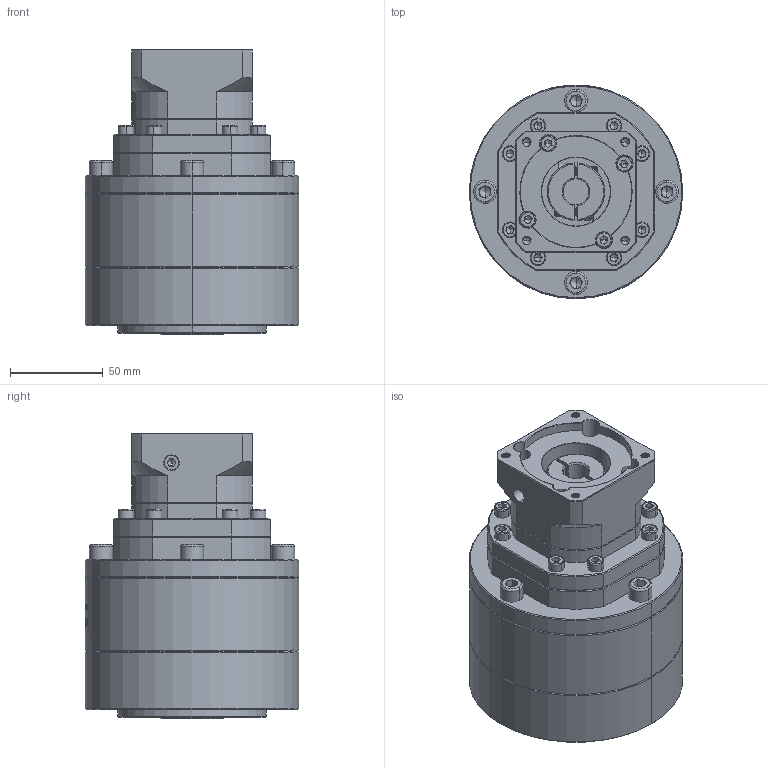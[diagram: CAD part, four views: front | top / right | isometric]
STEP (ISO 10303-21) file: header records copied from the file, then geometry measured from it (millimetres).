
FILE_DESCRIPTION (( 'STEP AP214' ), '1' );
FILE_NAME ('ZE120A-K25-L3-14-60-75-M5.step', '2023-03-09T15:41:45', ( '' ), ( 'Microsoft' ), 'SwSTEP 2.0', 'SolidWorks 2016', '' );
FILE_SCHEMA (( 'AUTOMOTIVE_DESIGN' ));
Length unit declared in the file: millimetre
Products named in the file (1): ZE120A-K25-L3-14-60-75-M5
Bounding box: 115 x 115 x 154 mm (x, y, z)
Volume: 1102656.8 mm3; surface area: 108626.3 mm2
Topology: 7 solids, 7 shells, 2120 faces, 5621 edges, 3599 vertices
Faces by surface type: plane 974, cylinder 491, bspline 340, cone 293, torus 22
Entity records: 116191 total; most frequent: CARTESIAN_POINT 44596, ORIENTED_EDGE 11122, DIRECTION 8604, EDGE_CURVE 5561, VERTEX_POINT 3599, VECTOR 2990, LINE 2990, AXIS2_PLACEMENT_3D 2807
